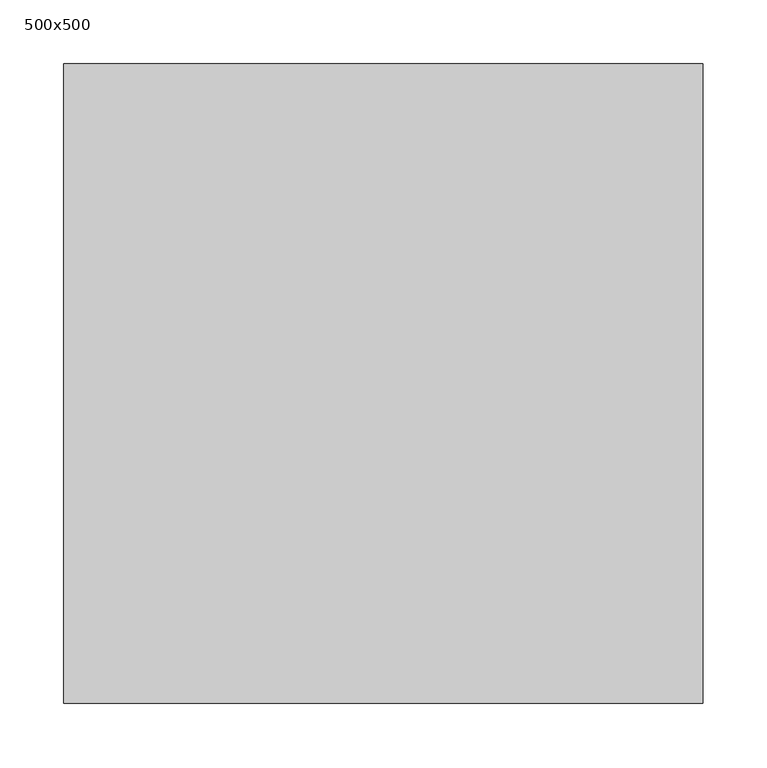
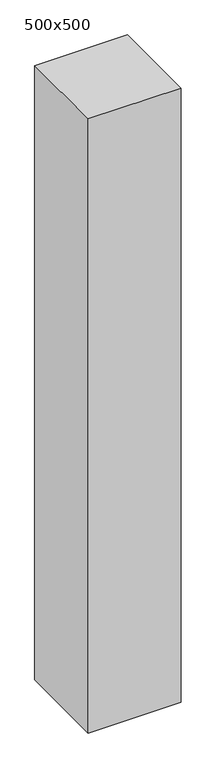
"""IFC4 building model written with IfcOpenShell, lengths in millimetres: column geometry, RC柱-角 : 500x500."""

from ifc_helpers import new_model, si_unit, frame, origin, place, context, project, spatial, polyline, outline, extrude, source, transform, mapped, element, save


def column_500x500_a29c4c3f(model_context):
    return source(origin(), model_context, "Body", "SweptSolid", [
        extrude(outline(polyline([(250.0, 250.0), (250.0, -250.0), (-250.0, -250.0), (-250.0, 250.0), (250.0, 250.0)])), frame((0.0, 0.0, 500.0), z_axis=(0.0, 0.0, 1.0), x_axis=(1.0, 0.0, 0.0)), (0.0, 0.0, 1.0), 3500.0),
    ])


if __name__ == "__main__":
    model = new_model("IFC4")
    model_context = context("Model", 3, world=origin())
    ifc_project = project(units=[si_unit("LENGTHUNIT", "METRE", prefix="MILLI")], contexts=[model_context])
    site = spatial("IfcSite", under=ifc_project)
    building = spatial("IfcBuilding", under=site)
    placement = place(None, origin())
    column_500x500_shape = column_500x500_a29c4c3f(model_context)
    element("IfcColumn", 1, ObjectType="RC柱-角 : 500x500", at=placement, inside=building, context=model_context, shape_type="MappedRepresentation", body=[
        mapped(column_500x500_shape, transform((0.0, 0.0, 0.0), x_axis=(1.0, 0.0, 0.0), y_axis=(0.0, 1.0, 0.0), z_axis=(0.0, 0.0, 1.0))),
    ])
    save(model, "model.ifc")
